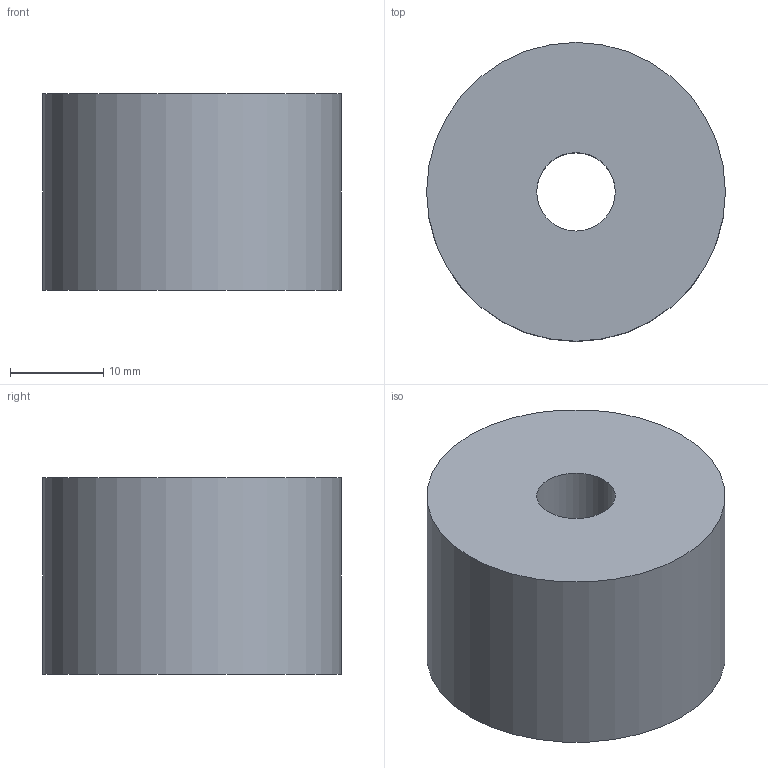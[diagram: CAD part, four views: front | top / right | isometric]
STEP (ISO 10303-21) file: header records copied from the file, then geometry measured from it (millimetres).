
FILE_DESCRIPTION(('Open CASCADE Model'),'2;1');
FILE_NAME('Open CASCADE Shape Model','2026-10-04T01:02:33',('Author'),( 'Open CASCADE'),'Open CASCADE STEP processor 8.0','Open CASCADE 8.0' ,'Unknown');
FILE_SCHEMA(('AUTOMOTIVE_DESIGN { 1 0 10303 214 1 1 1 1 }'));
Length unit declared in the file: millimetre
Products named in the file (1): Open CASCADE STEP translator 8.0 332
Bounding box: 32 x 32 x 21 mm (x, y, z)
Volume: 15725.4 mm3; surface area: 4163 mm2
Topology: 1 solids, 1 shells, 4 faces, 6 edges, 4 vertices
Faces by surface type: cylinder 2, plane 2
Full cylindrical faces by diameter (mm): 8.4 x1, 32 x1
Entity records: 186 total; most frequent: DIRECTION 32, CARTESIAN_POINT 27, ORIENTED_EDGE 12, PCURVE 12, DEFINITIONAL_REPRESENTATION 12, LINE 10, VECTOR 10, AXIS2_PLACEMENT_3D 9
